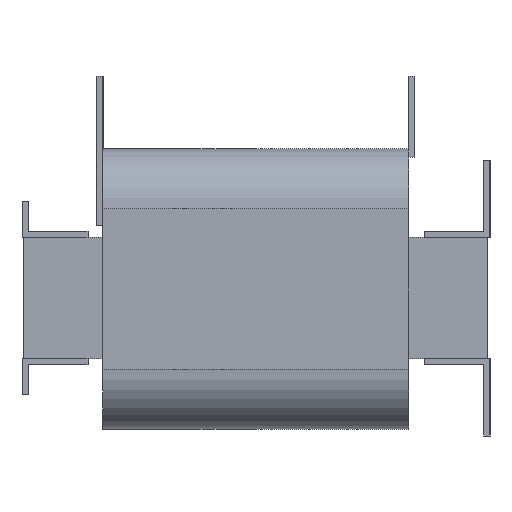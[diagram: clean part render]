
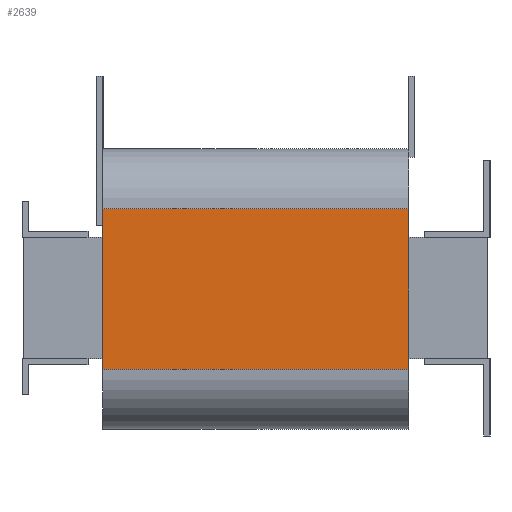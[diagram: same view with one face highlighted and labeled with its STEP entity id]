
A CAD part, left-side view. The second image highlights one B-rep face of the part: STEP entity #2639.
In plain terms, the highlighted planar face has unit normal (-1, 0, 0).
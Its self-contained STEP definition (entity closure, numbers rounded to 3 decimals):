
#114=PLANE('',#2843);
#243=FACE_OUTER_BOUND('',#393,.T.);
#393=EDGE_LOOP('',(#2263,#2264,#2265,#2266));
#670=LINE('',#4142,#996);
#689=LINE('',#4192,#1015);
#690=LINE('',#4195,#1016);
#691=LINE('',#4196,#1017);
#996=VECTOR('',#3383,10.);
#1015=VECTOR('',#3428,10.);
#1016=VECTOR('',#3431,10.);
#1017=VECTOR('',#3432,10.);
#1325=VERTEX_POINT('',#4139);
#1326=VERTEX_POINT('',#4141);
#1344=VERTEX_POINT('',#4190);
#1345=VERTEX_POINT('',#4194);
#1652=EDGE_CURVE('',#1325,#1326,#670,.T.);
#1678=EDGE_CURVE('',#1344,#1325,#689,.T.);
#1679=EDGE_CURVE('',#1344,#1345,#690,.T.);
#1680=EDGE_CURVE('',#1326,#1345,#691,.T.);
#2263=ORIENTED_EDGE('',*,*,#1678,.F.);
#2264=ORIENTED_EDGE('',*,*,#1679,.T.);
#2265=ORIENTED_EDGE('',*,*,#1680,.F.);
#2266=ORIENTED_EDGE('',*,*,#1652,.F.);
#2639=ADVANCED_FACE('',(#243),#114,.T.);
#2843=AXIS2_PLACEMENT_3D('',#4193,#3429,#3430);
#3383=DIRECTION('',(0.,0.,1.));
#3428=DIRECTION('',(0.,1.,0.));
#3429=DIRECTION('center_axis',(-1.,0.,0.));
#3430=DIRECTION('ref_axis',(0.,0.,1.));
#3431=DIRECTION('',(0.,0.,1.));
#3432=DIRECTION('',(0.,-1.,0.));
#4139=CARTESIAN_POINT('',(-289.,322.5,-59.5));
#4141=CARTESIAN_POINT('',(-289.,322.5,74.5));
#4142=CARTESIAN_POINT('',(-289.,322.5,-109.5));
#4190=CARTESIAN_POINT('',(-289.,67.5,-59.5));
#4192=CARTESIAN_POINT('',(-289.,67.5,-59.5));
#4193=CARTESIAN_POINT('Origin',(-289.,67.5,-109.5));
#4194=CARTESIAN_POINT('',(-289.,67.5,74.5));
#4195=CARTESIAN_POINT('',(-289.,67.5,-109.5));
#4196=CARTESIAN_POINT('',(-289.,67.5,74.5));
